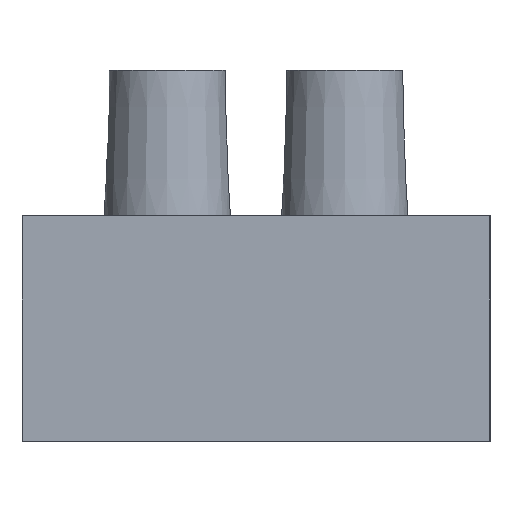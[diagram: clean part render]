
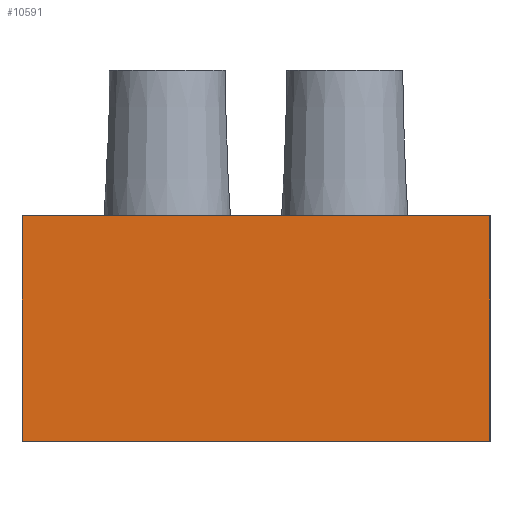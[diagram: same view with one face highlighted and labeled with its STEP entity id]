
A CAD part, left-side view. The second image highlights one B-rep face of the part: STEP entity #10591.
In plain terms, the highlighted planar face has unit normal (-1, 0, 0).
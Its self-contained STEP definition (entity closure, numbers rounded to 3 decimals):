
#898=ORIENTED_EDGE('',*,*,#3799,.T.);
#899=ORIENTED_EDGE('',*,*,#3813,.F.);
#900=ORIENTED_EDGE('',*,*,#3814,.F.);
#901=ORIENTED_EDGE('',*,*,#3793,.T.);
#3793=EDGE_CURVE('',#5269,#5268,#6325,.T.);
#3799=EDGE_CURVE('',#5268,#5274,#6331,.T.);
#3813=EDGE_CURVE('',#5287,#5274,#6343,.T.);
#3814=EDGE_CURVE('',#5269,#5287,#6344,.T.);
#5268=VERTEX_POINT('',#15797);
#5269=VERTEX_POINT('',#15799);
#5274=VERTEX_POINT('',#15811);
#5287=VERTEX_POINT('',#15841);
#6325=LINE('',#15798,#7557);
#6331=LINE('',#15810,#7563);
#6343=LINE('',#15840,#7575);
#6344=LINE('',#15842,#7576);
#7557=VECTOR('',#12551,1000.);
#7563=VECTOR('',#12559,1000.);
#7575=VECTOR('',#12581,1000.);
#7576=VECTOR('',#12582,1000.);
#8530=EDGE_LOOP('',(#898,#899,#900,#901));
#9316=FACE_BOUND('',#8530,.T.);
#10081=PLANE('',#11233);
#10591=ADVANCED_FACE('',(#9316),#10081,.F.);
#11233=AXIS2_PLACEMENT_3D('',#15839,#12579,#12580);
#12551=DIRECTION('',(0.,-1.,0.));
#12559=DIRECTION('',(0.,0.,1.));
#12579=DIRECTION('',(1.,0.,0.));
#12580=DIRECTION('',(0.,0.,-1.));
#12581=DIRECTION('',(0.,-1.,0.));
#12582=DIRECTION('',(0.,0.,1.));
#15797=CARTESIAN_POINT('',(-5.5,0.,-7.));
#15798=CARTESIAN_POINT('',(-5.5,29.,-7.));
#15799=CARTESIAN_POINT('',(-5.5,29.,-7.));
#15810=CARTESIAN_POINT('',(-5.5,0.,-7.));
#15811=CARTESIAN_POINT('',(-5.5,0.,7.));
#15839=CARTESIAN_POINT('',(-5.5,29.,-7.));
#15840=CARTESIAN_POINT('',(-5.5,29.,7.));
#15841=CARTESIAN_POINT('',(-5.5,29.,7.));
#15842=CARTESIAN_POINT('',(-5.5,29.,-7.));
